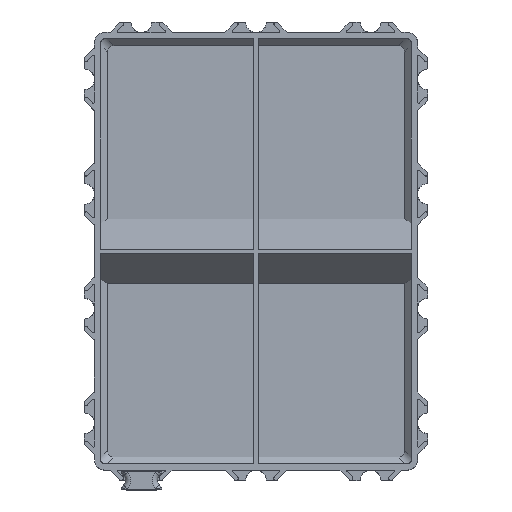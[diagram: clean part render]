
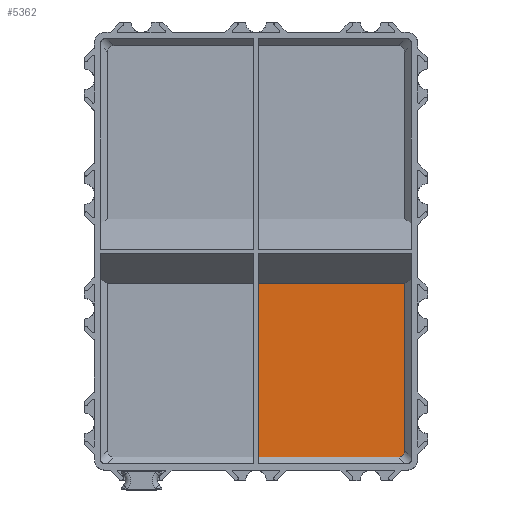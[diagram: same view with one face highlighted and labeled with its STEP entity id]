
A CAD part, top view. The second image highlights one B-rep face of the part: STEP entity #5362.
In plain terms, the highlighted planar face has unit normal (0, 0, 1).
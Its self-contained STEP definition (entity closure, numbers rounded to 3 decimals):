
#331=ELLIPSE('',#5669,3.118,1.8);
#422=FACE_OUTER_BOUND('',#704,.T.);
#704=EDGE_LOOP('',(#3332,#3333,#3334,#3335,#3336));
#990=LINE('',#7855,#1502);
#994=LINE('',#7863,#1506);
#995=LINE('',#7865,#1507);
#996=LINE('',#7868,#1508);
#1502=VECTOR('',#6228,10.);
#1506=VECTOR('',#6234,10.);
#1507=VECTOR('',#6235,10.);
#1508=VECTOR('',#6238,10.);
#2013=VERTEX_POINT('',#7851);
#2015=VERTEX_POINT('',#7854);
#2018=VERTEX_POINT('',#7862);
#2019=VERTEX_POINT('',#7864);
#2020=VERTEX_POINT('',#7866);
#2534=EDGE_CURVE('',#2013,#2015,#990,.T.);
#2538=EDGE_CURVE('',#2013,#2018,#994,.T.);
#2539=EDGE_CURVE('',#2018,#2019,#995,.T.);
#2540=EDGE_CURVE('',#2019,#2020,#331,.T.);
#2541=EDGE_CURVE('',#2020,#2015,#996,.T.);
#3332=ORIENTED_EDGE('',*,*,#2534,.F.);
#3333=ORIENTED_EDGE('',*,*,#2538,.T.);
#3334=ORIENTED_EDGE('',*,*,#2539,.T.);
#3335=ORIENTED_EDGE('',*,*,#2540,.T.);
#3336=ORIENTED_EDGE('',*,*,#2541,.T.);
#4916=PLANE('',#5668);
#5362=ADVANCED_FACE('',(#422),#4916,.F.);
#5668=AXIS2_PLACEMENT_3D('',#7861,#6232,#6233);
#5669=AXIS2_PLACEMENT_3D('',#7867,#6236,#6237);
#6228=DIRECTION('',(1.,0.,0.));
#6232=DIRECTION('center_axis',(0.,0.,-1.));
#6233=DIRECTION('ref_axis',(-1.,0.,0.));
#6234=DIRECTION('',(0.,-1.,0.));
#6235=DIRECTION('',(1.,0.,0.));
#6236=DIRECTION('center_axis',(0.,0.,1.));
#6237=DIRECTION('ref_axis',(0.707,-0.707,0.));
#6238=DIRECTION('',(0.,1.,0.));
#7851=CARTESIAN_POINT('',(33.4,37.826,-10.));
#7854=CARTESIAN_POINT('',(61.503,37.826,-10.));
#7855=CARTESIAN_POINT('',(33.,37.826,-10.));
#7861=CARTESIAN_POINT('Origin',(33.,44.,-10.));
#7862=CARTESIAN_POINT('',(33.4,4.497,-10.));
#7863=CARTESIAN_POINT('',(33.4,44.,-10.));
#7864=CARTESIAN_POINT('',(60.23,4.497,-10.));
#7865=CARTESIAN_POINT('',(40.75,4.497,-10.));
#7866=CARTESIAN_POINT('',(61.503,5.77,-10.));
#7867=CARTESIAN_POINT('Origin',(58.957,7.043,-10.));
#7868=CARTESIAN_POINT('',(61.503,54.5,-10.));
